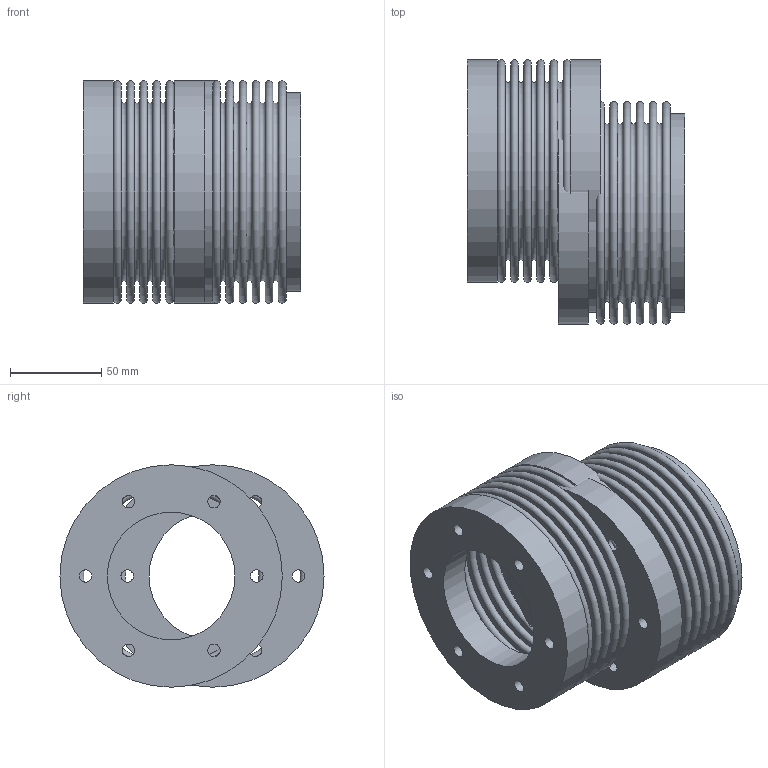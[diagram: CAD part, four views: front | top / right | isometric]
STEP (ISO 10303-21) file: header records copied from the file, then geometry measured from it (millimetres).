
FILE_DESCRIPTION( ( 'Unknown' ), '1' );
FILE_NAME( 'C:/Dokumente und Einstellungen/Sven/Desktop/homepage/cad - homepage/KB7/KB7-500-72.stp', 'Unknown', ( 'Unknown' ), ( 'Unknown' ), 'XStep 1.0', 'Unknown', ' ' );
FILE_SCHEMA( ( 'automotive_design' ) );
Length unit declared in the file: millimetre
Products named in the file (3): Assem1; BL500_Standard; FN500_Standard_0
Bounding box: 119.19 x 144.9 x 122 mm (x, y, z)
Volume: 450148.1 mm3; surface area: 325372.5 mm2
Topology: 5 solids, 5 shells, 134 faces, 228 edges, 152 vertices
Faces by surface type: plane 58, torus 44, cylinder 32
Full cylindrical faces by diameter (mm): 6.8 x18, 70 x3, 107.7 x4, 108.9 x4, 122 x3
Entity records: 1810 total; most frequent: DIRECTION 268, CARTESIAN_POINT 202, EDGE_LOOP 136, ORIENTED_EDGE 136, AXIS2_PLACEMENT_3D 134, FACE_OUTER_BOUND 96, EDGE_CURVE 68, VERTEX_POINT 68
